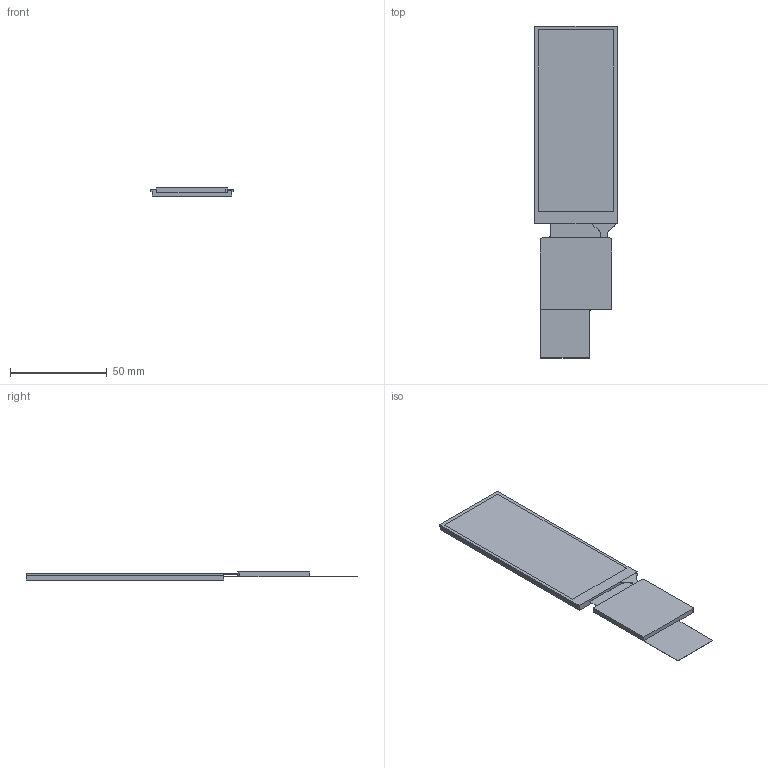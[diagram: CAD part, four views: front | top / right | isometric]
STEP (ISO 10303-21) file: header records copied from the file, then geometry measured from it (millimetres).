
FILE_DESCRIPTION((''),'2;1');
FILE_NAME('DMG40960F040_01WTR','2023-06-13T',('Administrator'),(''),'PRO/ENGINEER BY PARAMETRIC TECHNOLOGY CORPORATION, 2008380','PRO/ENGINEER BY PARAMETRIC TECHNOLOGY CORPORATION, 2008380','');
FILE_SCHEMA(('CONFIG_CONTROL_DESIGN'));
Length unit declared in the file: millimetre
Products named in the file (1): DMG40960F040_01WTR
Bounding box: 42.48 x 171.83 x 4.2 mm (x, y, z)
Volume: 18199.2 mm3; surface area: 14550.7 mm2
Topology: 1 solids, 1 shells, 42 faces, 253 edges, 286 vertices
Faces by surface type: plane 30, cylinder 12
Entity records: 2178 total; most frequent: DIRECTION 389, CARTESIAN_POINT 376, ORIENTED_EDGE 236, VECTOR 203, LINE 203, TRIMMED_CURVE 135, EDGE_CURVE 118, AXIS2_PLACEMENT_3D 93
